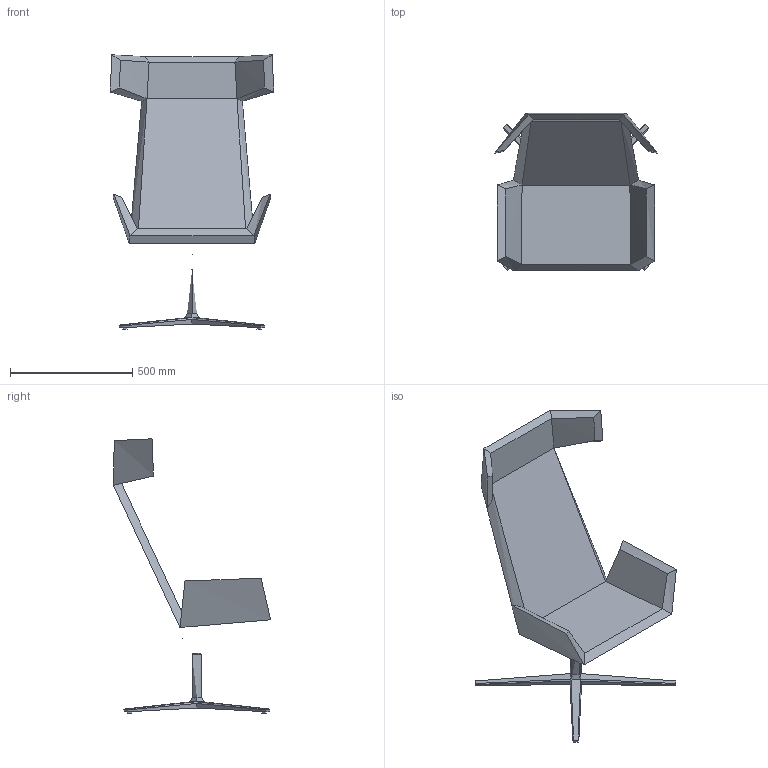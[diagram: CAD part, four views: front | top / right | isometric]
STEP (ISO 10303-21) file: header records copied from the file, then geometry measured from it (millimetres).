
FILE_DESCRIPTION(/* description */ (''),/* implementation_level */ '2;1');
FILE_NAME(/* name */ 'FL741A~1',/* time_stamp */ '2015-11-09T21:07:01+01:00',/* author */ (''),/* organization */ (''),/* preprocessor_version */ 'ST-DEVELOPER v15',/* originating_system */ '',/* authorisation */ '');
FILE_SCHEMA (('CONFIG_CONTROL_DESIGN'));
Length unit declared in the file: millimetre
Products named in the file (1): Document
Bounding box: 669.65 x 643.88 x 1123.96 mm (x, y, z)
Volume: 40116000.7 mm3; surface area: 1966346.4 mm2
Topology: 1 solids, 7 shells, 86 faces, 197 edges, 113 vertices
Faces by surface type: bspline 68, plane 18
Entity records: 25321 total; most frequent: CARTESIAN_POINT 24170, ORIENTED_EDGE 352, EDGE_CURVE 194, VERTEX_POINT 113, EDGE_LOOP 88, ADVANCED_FACE 86, FACE_OUTER_BOUND 86, B_SPLINE_CURVE_WITH_KNOTS 51
